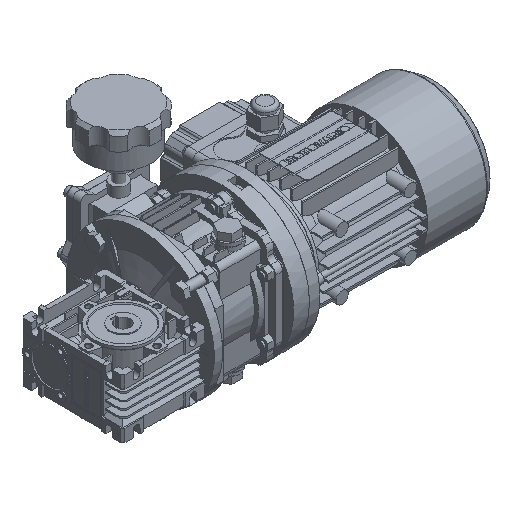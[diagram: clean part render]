
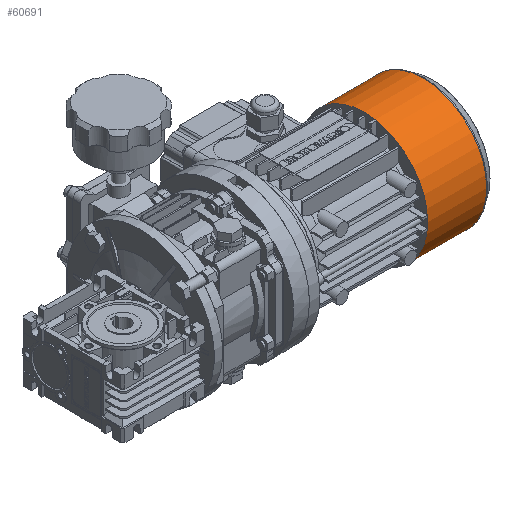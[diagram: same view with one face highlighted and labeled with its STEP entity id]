
A CAD part, isometric view. The second image highlights one B-rep face of the part: STEP entity #60691.
In plain terms, the highlighted cylindrical face has radius 60.45 mm (diameter 120.9 mm), a full revolution.
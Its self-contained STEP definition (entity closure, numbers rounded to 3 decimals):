
#1425=CYLINDRICAL_SURFACE('',#66635,60.45);
#4269=CIRCLE('',#66634,60.45);
#4270=CIRCLE('',#66636,60.45);
#21564=ORIENTED_EDGE('',*,*,#30474,.F.);
#21565=ORIENTED_EDGE('',*,*,#30473,.T.);
#30473=EDGE_CURVE('',#36412,#36412,#4269,.T.);
#30474=EDGE_CURVE('',#36413,#36413,#4270,.T.);
#36412=VERTEX_POINT('',#102993);
#36413=VERTEX_POINT('',#102996);
#51652=EDGE_LOOP('',(#21564));
#51653=EDGE_LOOP('',(#21565));
#55331=FACE_BOUND('',#51652,.T.);
#55332=FACE_BOUND('',#51653,.T.);
#60691=ADVANCED_FACE('',(#55331,#55332),#1425,.T.);
#66634=AXIS2_PLACEMENT_3D('',#102992,#84171,#84172);
#66635=AXIS2_PLACEMENT_3D('',#102994,#84173,#84174);
#66636=AXIS2_PLACEMENT_3D('',#102995,#84175,#84176);
#84171=DIRECTION('',(1.,0.,0.));
#84172=DIRECTION('',(0.,0.,-1.));
#84173=DIRECTION('',(1.,0.,0.));
#84174=DIRECTION('',(0.,0.,-1.));
#84175=DIRECTION('',(1.,0.,0.));
#84176=DIRECTION('',(0.,0.,-1.));
#102992=CARTESIAN_POINT('',(0.,0.,0.));
#102993=CARTESIAN_POINT('',(0.,0.,-60.45));
#102994=CARTESIAN_POINT('',(66.,0.,0.));
#102995=CARTESIAN_POINT('',(56.158,0.,0.));
#102996=CARTESIAN_POINT('',(56.158,0.,-60.45));
